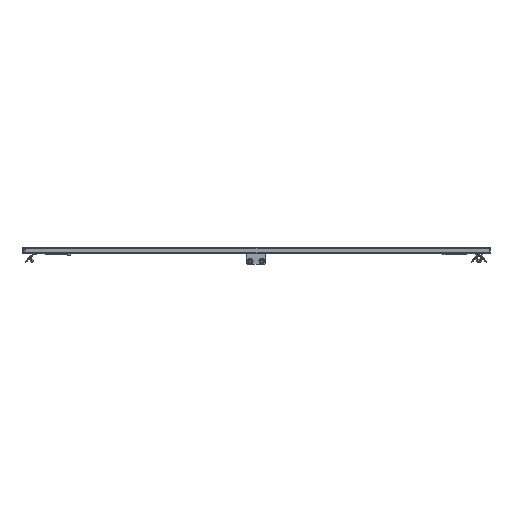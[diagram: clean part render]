
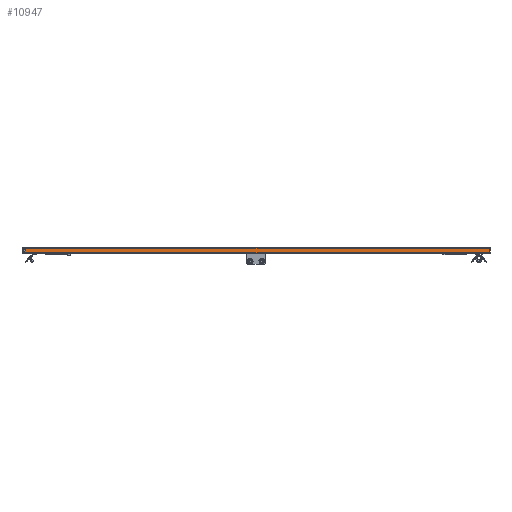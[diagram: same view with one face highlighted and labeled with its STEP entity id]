
A CAD part, front view. The second image highlights one B-rep face of the part: STEP entity #10947.
In plain terms, the highlighted planar face has unit normal (0, -1, 0).
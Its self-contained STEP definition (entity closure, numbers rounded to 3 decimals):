
#113 = DIRECTION ( 'NONE',  ( 0., 1., 0. ) ) ;
#574 = ORIENTED_EDGE ( 'NONE', *, *, #29418, .T. ) ;
#640 = VECTOR ( 'NONE', #35097, 1000. ) ;
#752 = ORIENTED_EDGE ( 'NONE', *, *, #34715, .F. ) ;
#2242 = LINE ( 'NONE', #51126, #640 ) ;
#2568 = DIRECTION ( 'NONE',  ( 1., 0., 0. ) ) ;
#2618 = LINE ( 'NONE', #39465, #35008 ) ;
#3133 = LINE ( 'NONE', #52027, #9099 ) ;
#4306 = VERTEX_POINT ( 'NONE', #20781 ) ;
#4432 = VERTEX_POINT ( 'NONE', #5018 ) ;
#4614 = CARTESIAN_POINT ( 'NONE',  ( 497.5, -1000., -10.6 ) ) ;
#4743 = CARTESIAN_POINT ( 'NONE',  ( -492.5, -1000., -2.9 ) ) ;
#5018 = CARTESIAN_POINT ( 'NONE',  ( -497.5, -1000., 1.4 ) ) ;
#8709 = ORIENTED_EDGE ( 'NONE', *, *, #19817, .F. ) ;
#9099 = VECTOR ( 'NONE', #34669, 1000. ) ;
#10049 = CIRCLE ( 'NONE', #16854, 1.7 ) ;
#10947 = ADVANCED_FACE ( 'NONE', ( #22868, #26632 ), #27671, .F. ) ;
#13164 = CARTESIAN_POINT ( 'NONE',  ( -492.5, -1000., -4.6 ) ) ;
#13174 = CARTESIAN_POINT ( 'NONE',  ( -497.5, -1000., -10.6 ) ) ;
#14456 = AXIS2_PLACEMENT_3D ( 'NONE', #23151, #47184, #2568 ) ;
#16854 = AXIS2_PLACEMENT_3D ( 'NONE', #39620, #18270, #30318 ) ;
#17231 = EDGE_LOOP ( 'NONE', ( #31968, #21716 ) ) ;
#18270 = DIRECTION ( 'NONE',  ( 0., 1., 0. ) ) ;
#18879 = EDGE_LOOP ( 'NONE', ( #22110, #574, #8709, #752 ) ) ;
#19817 = EDGE_CURVE ( 'NONE', #23384, #4432, #49163, .T. ) ;
#20213 = VERTEX_POINT ( 'NONE', #4743 ) ;
#20781 = CARTESIAN_POINT ( 'NONE',  ( -492.5, -1000., -6.3 ) ) ;
#20837 = DIRECTION ( 'NONE',  ( 0., 0., 1. ) ) ;
#21716 = ORIENTED_EDGE ( 'NONE', *, *, #34698, .T. ) ;
#22110 = ORIENTED_EDGE ( 'NONE', *, *, #32712, .F. ) ;
#22868 = FACE_OUTER_BOUND ( 'NONE', #18879, .T. ) ;
#23151 = CARTESIAN_POINT ( 'NONE',  ( 0., -1000., -8.2 ) ) ;
#23384 = VERTEX_POINT ( 'NONE', #13174 ) ;
#26632 = FACE_BOUND ( 'NONE', #17231, .T. ) ;
#27671 = PLANE ( 'NONE',  #14456 ) ;
#29418 = EDGE_CURVE ( 'NONE', #43993, #4432, #2618, .T. ) ;
#29827 = VECTOR ( 'NONE', #20837, 1000. ) ;
#30318 = DIRECTION ( 'NONE',  ( 0., 0., -1. ) ) ;
#31968 = ORIENTED_EDGE ( 'NONE', *, *, #50401, .T. ) ;
#32712 = EDGE_CURVE ( 'NONE', #43993, #34899, #3133, .T. ) ;
#34669 = DIRECTION ( 'NONE',  ( 0., 0., -1. ) ) ;
#34698 = EDGE_CURVE ( 'NONE', #20213, #4306, #10049, .T. ) ;
#34715 = EDGE_CURVE ( 'NONE', #34899, #23384, #2242, .T. ) ;
#34899 = VERTEX_POINT ( 'NONE', #4614 ) ;
#35008 = VECTOR ( 'NONE', #35195, 1000. ) ;
#35097 = DIRECTION ( 'NONE',  ( -1., 0., 0. ) ) ;
#35195 = DIRECTION ( 'NONE',  ( -1., 0., 0. ) ) ;
#36719 = AXIS2_PLACEMENT_3D ( 'NONE', #13164, #113, #45727 ) ;
#39465 = CARTESIAN_POINT ( 'NONE',  ( 0., -1000., 1.4 ) ) ;
#39620 = CARTESIAN_POINT ( 'NONE',  ( -492.5, -1000., -4.6 ) ) ;
#41144 = CARTESIAN_POINT ( 'NONE',  ( -497.5, -1000., -8.2 ) ) ;
#43993 = VERTEX_POINT ( 'NONE', #44187 ) ;
#44187 = CARTESIAN_POINT ( 'NONE',  ( 497.5, -1000., 1.4 ) ) ;
#44422 = CIRCLE ( 'NONE', #36719, 1.7 ) ;
#45727 = DIRECTION ( 'NONE',  ( 0., 0., -1. ) ) ;
#47184 = DIRECTION ( 'NONE',  ( 0., 1., 0. ) ) ;
#49163 = LINE ( 'NONE', #41144, #29827 ) ;
#50401 = EDGE_CURVE ( 'NONE', #4306, #20213, #44422, .T. ) ;
#51126 = CARTESIAN_POINT ( 'NONE',  ( 0., -1000., -10.6 ) ) ;
#52027 = CARTESIAN_POINT ( 'NONE',  ( 497.5, -1000., -8.2 ) ) ;
